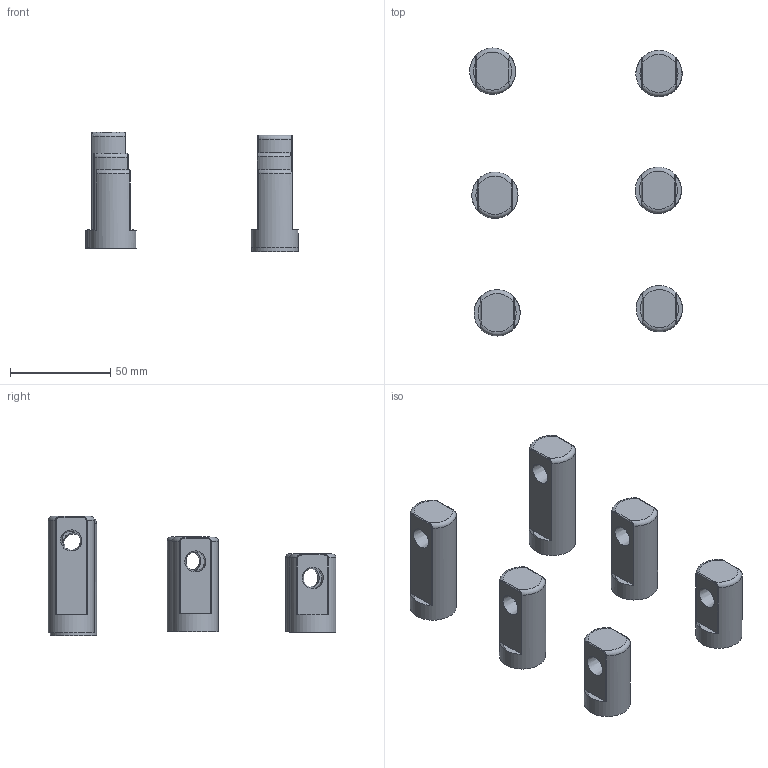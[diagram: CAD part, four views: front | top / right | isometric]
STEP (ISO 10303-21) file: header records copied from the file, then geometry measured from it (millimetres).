
FILE_DESCRIPTION(/* description */ (''),/* implementation_level */ '2;1');
FILE_NAME(/* name */ '\\NAS\db20\RG6\RG_M.stp',/* time_stamp */ '2017-08-04T08:38:15+09:00',/* author */ ('user'),/* organization */ (''),/* preprocessor_version */ 'ST-DEVELOPER v15.6',/* originating_system */ 'Autodesk Inventor 2015',/* authorisation */ '');
FILE_SCHEMA (('AUTOMOTIVE_DESIGN { 1 0 10303 214 3 1 1 }'));
Length unit declared in the file: millimetre
Products named in the file (7): RG6-39; RG6-47; RG6-58; RG8-39; RG8-47; RG8-58; RG_M
Bounding box: 105.97 x 143.32 x 59.41 mm (x, y, z)
Volume: 81323.8 mm3; surface area: 31537.7 mm2
Topology: 6 solids, 6 shells, 144 faces, 312 edges, 192 vertices
Faces by surface type: cylinder 54, plane 48, bspline 30, torus 12
Full cylindrical faces by diameter (mm): 6 x3, 8 x3, 19 x6, 23 x6
Entity records: 5255 total; most frequent: CARTESIAN_POINT 2155, DIRECTION 614, ORIENTED_EDGE 576, EDGE_CURVE 288, AXIS2_PLACEMENT_3D 265, EDGE_LOOP 186, VERTEX_POINT 186, FACE_OUTER_BOUND 144
